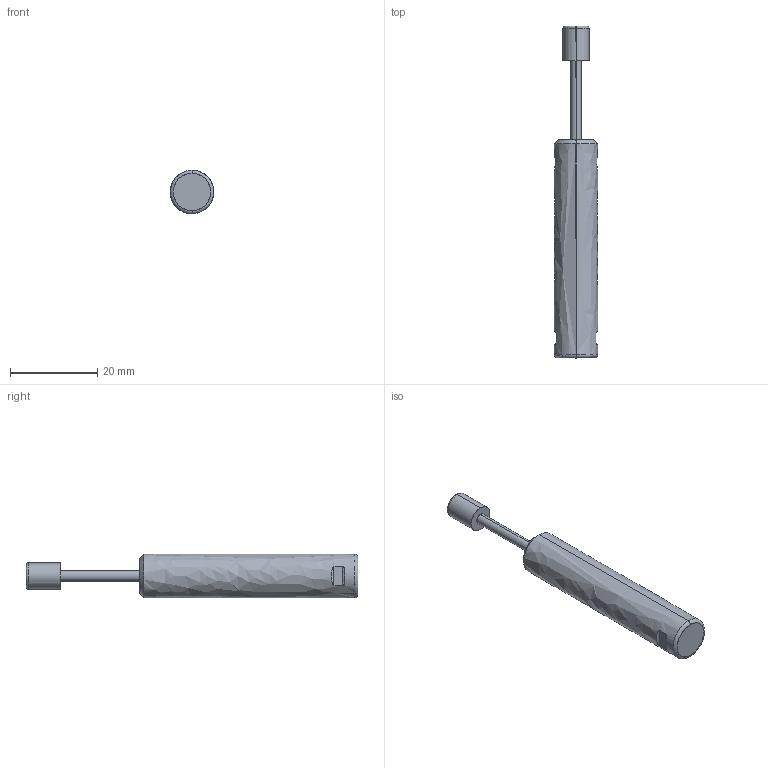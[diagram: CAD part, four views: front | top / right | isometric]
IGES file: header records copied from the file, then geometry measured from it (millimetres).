
Start section: SolidWorks IGES file using analytic representation for surfaces
Bounding box: 10 x 76 x 10 mm (x, y, z)
Surface area: 2216.6 mm2 (no closed solid volume)
Topology: 0 solids, 0 shells, 28 faces, 408 edges, 408 vertices
Faces by surface type: revolution 18, bspline 10
